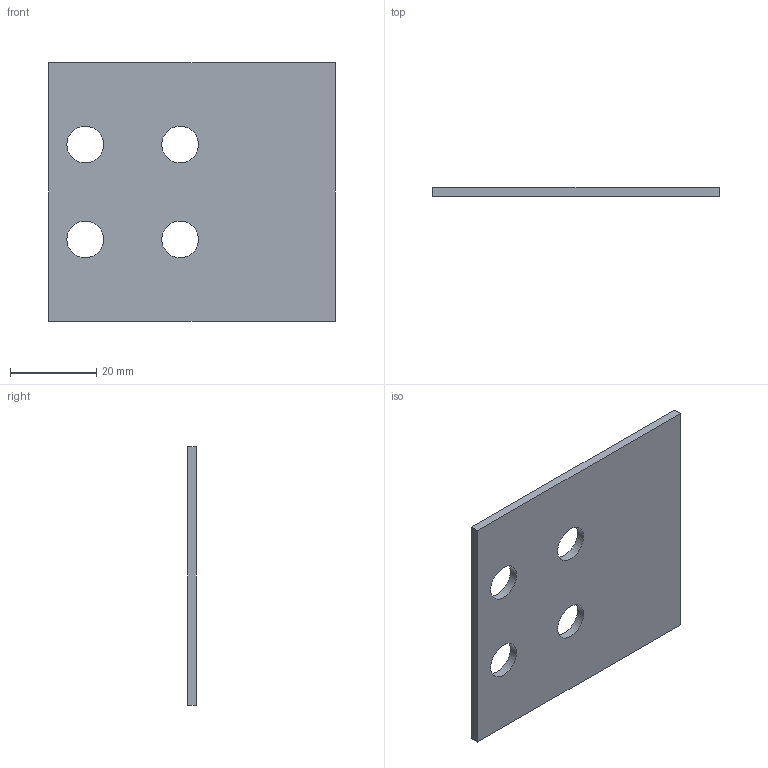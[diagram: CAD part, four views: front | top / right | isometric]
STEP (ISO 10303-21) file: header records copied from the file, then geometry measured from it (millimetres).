
FILE_DESCRIPTION( ( '' ), '1' );
FILE_NAME( 'E:/04 嬴檜蠱滌/0404 ZIMMER/040414 ZIMMER CAD download/Adapt plate/PLK for LKP, LKPS/PLK30-2.stp', '2020-04-16T10:19:46', ( '' ), ( '' ), ' ', ' ', ' ' );
FILE_SCHEMA( ( 'automotive_design' ) );
Length unit declared in the file: millimetre
Products named in the file (1): 1
Bounding box: 66.5 x 2 x 60 mm (x, y, z)
Volume: 7526 mm3; surface area: 8245.7 mm2
Topology: 1 solids, 1 shells, 14 faces, 36 edges, 24 vertices
Faces by surface type: cylinder 8, plane 6
Entity records: 888 total; most frequent: DIRECTION 82, STYLED_ITEM 75, PRESENTATION_STYLE_ASSIGNMENT 75, CARTESIAN_POINT 75, COLOUR_RGB 75, ORIENTED_EDGE 72, EDGE_CURVE 36, CURVE_STYLE 36
